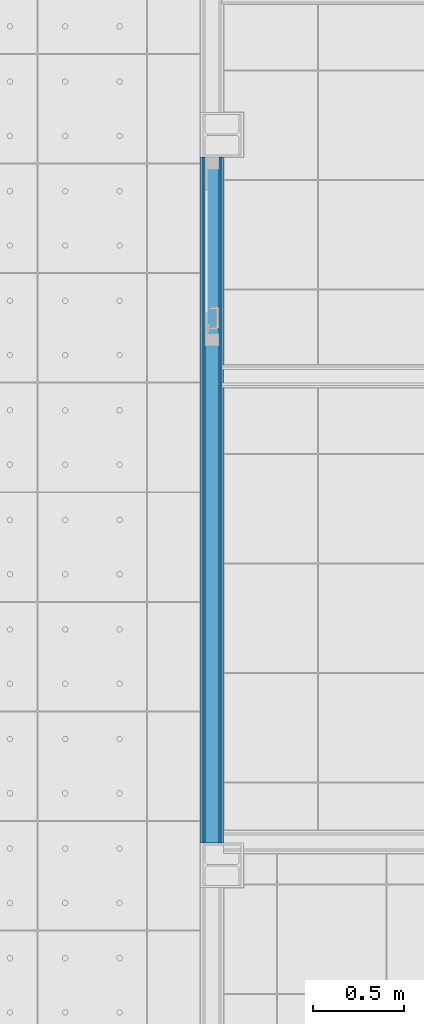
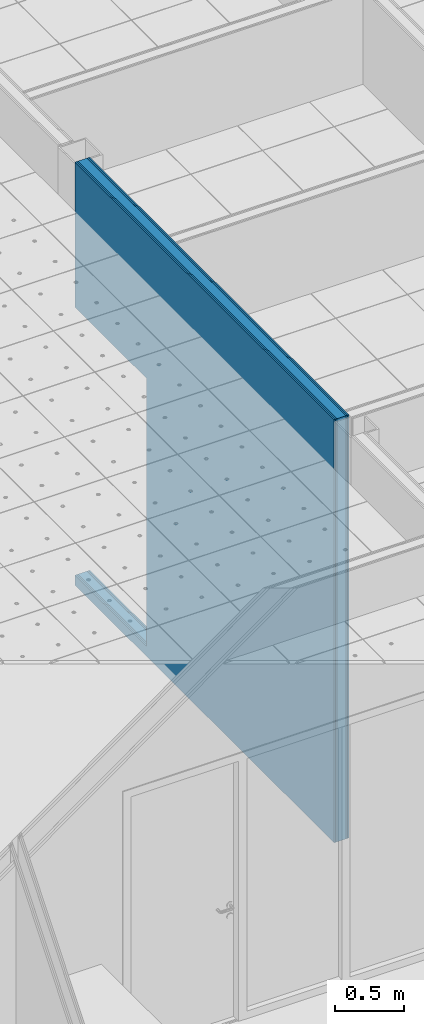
# One storey, part 84 of 338: 5 building element parts, 1 opening, 1 element without a shape of its own.
"""IFC2X3 building model written with IfcOpenShell, lengths in millimetres."""

from ifc_helpers import new_model, entity, si_unit, converted_unit, derived_unit, money_unit, direction, frame, origin_with_axes, place, context, subcontext, project, spatial, faceted_brep, material, type_object, element, aggregate, save


model = new_model("IFC2X3")

# Units and contexts
model_context = context("Model", 3, precision=0.01, world=origin_with_axes(), true_north=direction((0.0, 1.0)))
plan_context = context("Plan", 3, precision=0.01, world=origin_with_axes(), true_north=direction((0.0, 1.0)))
body_context = subcontext(model_context, "Body", "Model", "MODEL_VIEW")
ifc_project = project(units=[si_unit("LENGTHUNIT", "METRE", prefix="MILLI"), si_unit("AREAUNIT", "SQUARE_METRE"), si_unit("VOLUMEUNIT", "CUBIC_METRE"), converted_unit("PLANEANGLEUNIT", "DEGREE", entity("IfcPlaneAngleMeasure", 0.0174532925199), si_unit("PLANEANGLEUNIT", "RADIAN"), dimensions=[0, 0, 0, 0, 0, 0, 0]), money_unit("EUR"), converted_unit("TIMEUNIT", "Year", entity("IfcTimeMeasure", 31556926.0), si_unit("TIMEUNIT", "SECOND"), dimensions=[0, 0, 1, 0, 0, 0, 0]), si_unit("MASSUNIT", "GRAM", prefix="KILO"), si_unit("THERMODYNAMICTEMPERATUREUNIT", "DEGREE_CELSIUS"), si_unit("LUMINOUSINTENSITYUNIT", "LUMEN"), si_unit("ENERGYUNIT", "JOULE", prefix="MEGA"), derived_unit("THERMALCONDUCTANCEUNIT", [(si_unit("POWERUNIT", "WATT"), 1), (si_unit("LENGTHUNIT", "METRE"), -1), (si_unit("THERMODYNAMICTEMPERATUREUNIT", "KELVIN"), -1)]), derived_unit("SPECIFICHEATCAPACITYUNIT", [(si_unit("ENERGYUNIT", "JOULE"), 1), (si_unit("MASSUNIT", "GRAM", prefix="KILO"), -1), (si_unit("THERMODYNAMICTEMPERATUREUNIT", "KELVIN"), -1)]), derived_unit("MASSDENSITYUNIT", [(si_unit("MASSUNIT", "GRAM", prefix="KILO"), 1), (si_unit("VOLUMEUNIT", "CUBIC_METRE"), -1)])], contexts=[model_context, plan_context])

# Site, building, storey
site_placement = place(None, origin_with_axes())
site = spatial("IfcSite", under=ifc_project, at=site_placement, Name="Fortuinstraat Woensdrecht", CompositionType="ELEMENT")
building_placement = place(site_placement, origin_with_axes())
building = spatial("IfcBuilding", under=site, at=building_placement, Name="IKC Fortuna", CompositionType="ELEMENT")
storey_placement = place(building_placement, origin_with_axes())
storey = spatial("IfcBuildingStorey", under=building, at=storey_placement, Name="00 begane grond", CompositionType="ELEMENT", Elevation=0.0)

# Wall, opening, building element parts
wall_type = type_object("IfcWallType", Name="MS125 2.75.2A 125", PredefinedType="NOTDEFINED")
wall_placement = place(storey_placement, frame((20451.9349765, 31944.7966283, -90.0), z_axis=(0.0, 0.0, 1.0), x_axis=(0.0, -1.0, 0.0)))
wall = element("IfcWall", 1, at=wall_placement, inside=storey, type_object=wall_type, Name="22_Wand_Binnenwand")
opening_placement = place(wall_placement, frame((517.0, 0.0, 90.0), z_axis=(0.0, 0.0, 1.0), x_axis=(1.0, 0.0, 0.0)))
element("IfcOpeningElement", 2, at=opening_placement, cuts=wall, Name="32_Deur_h.01c", context=body_context, shape_type="Brep", body=[
    faceted_brep([(-517.0, 125.0, 2367.0), (-517.0, 125.0, 0.0), (-517.0, -250.0, 0.0), (-517.0, -250.0, 2367.0), (517.0, 125.0, 2367.0), (517.0, 125.0, 0.0), (517.0, -250.0, 0.0), (517.0, -250.0, 2367.0)], [[[0, 1, 2, 3]], [[0, 4, 5, 1]], [[1, 5, 6, 2]], [[3, 2, 6, 7]], [[4, 0, 3, 7]], [[5, 4, 7, 6]]]),
])
ifc_material_1 = material(Name="Gipsplaat")
building_element_part_1_placement = place(wall_placement, origin_with_axes())
building_element_part_1 = element("IfcBuildingElementPart", 3, at=building_element_part_1_placement, material=ifc_material_1, Name="Gipsplaat", context=body_context, shape_type="Brep", body=[
    faceted_brep([(1034.0, 125.0, 90.0), (1034.0, 125.0, 2457.0), (0.0, 125.0, 2457.0), (0.0, 125.0, 3740.0), (3755.0, 125.0, 3740.0), (3755.0, 125.0, 0.0), (0.0, 125.0, 0.0), (0.0, 125.0, 90.0), (1034.0, 112.5, 90.0), (1034.0, 112.5, 2457.0), (0.0, 112.5, 2457.0), (0.0, 112.5, 3740.0), (3755.0, 112.5, 3740.0), (3755.0, 112.5, 0.0), (0.0, 112.5, 0.0), (0.0, 112.5, 90.0)], [[[0, 1, 2, 3, 4, 5, 6, 7]], [[1, 0, 8, 9]], [[10, 2, 1, 9]], [[2, 10, 11, 3]], [[4, 3, 11, 12]], [[13, 5, 4, 12]], [[13, 14, 6, 5]], [[15, 7, 6, 14]], [[0, 7, 15, 8]], [[8, 15, 14, 13, 12, 11, 10, 9]]]),
])
building_element_part_2_placement = place(wall_placement, origin_with_axes())
building_element_part_2 = element("IfcBuildingElementPart", 4, at=building_element_part_2_placement, material=ifc_material_1, Name="Gipsplaat", context=body_context, shape_type="Brep", body=[
    faceted_brep([(1034.0, 112.5, 90.0), (1034.0, 112.5, 2457.0), (0.0, 112.5, 2457.0), (0.0, 112.5, 3740.0), (3755.0, 112.5, 3740.0), (3755.0, 112.5, 0.0), (0.0, 112.5, 0.0), (0.0, 112.5, 90.0), (1034.0, 100.0, 90.0), (1034.0, 100.0, 2457.0), (0.0, 100.0, 2457.0), (0.0, 100.0, 3740.0), (3755.0, 100.0, 3740.0), (3755.0, 100.0, 0.0), (0.0, 100.0, 0.0), (0.0, 100.0, 90.0)], [[[0, 1, 2, 3, 4, 5, 6, 7]], [[1, 0, 8, 9]], [[10, 2, 1, 9]], [[2, 10, 11, 3]], [[4, 3, 11, 12]], [[13, 5, 4, 12]], [[13, 14, 6, 5]], [[15, 7, 6, 14]], [[0, 7, 15, 8]], [[8, 15, 14, 13, 12, 11, 10, 9]]]),
])
ifc_material_2 = material(Name="Isolatie - Steenwol LSW")
building_element_part_3_placement = place(wall_placement, origin_with_axes())
building_element_part_3 = element("IfcBuildingElementPart", 5, at=building_element_part_3_placement, material=ifc_material_2, Name="Isolatie - Steenwol LSW", context=body_context, shape_type="Brep", body=[
    faceted_brep([(1034.0, 100.0, 90.0), (1034.0, 100.0, 2457.0), (0.0, 100.0, 2457.0), (0.0, 100.0, 3740.0), (3755.0, 100.0, 3740.0), (3755.0, 100.0, 0.0), (0.0, 100.0, 0.0), (0.0, 100.0, 90.0), (1034.0, 25.0, 90.0), (1034.0, 25.0, 2457.0), (0.0, 25.0, 2457.0), (0.0, 25.0, 3740.0), (3755.0, 25.0, 3740.0), (3755.0, 25.0, 0.0), (0.0, 25.0, 0.0), (0.0, 25.0, 90.0)], [[[0, 1, 2, 3, 4, 5, 6, 7]], [[1, 0, 8, 9]], [[10, 2, 1, 9]], [[2, 10, 11, 3]], [[4, 3, 11, 12]], [[13, 5, 4, 12]], [[13, 14, 6, 5]], [[15, 7, 6, 14]], [[0, 7, 15, 8]], [[8, 15, 14, 13, 12, 11, 10, 9]]]),
])
building_element_part_4_placement = place(wall_placement, origin_with_axes())
building_element_part_4 = element("IfcBuildingElementPart", 6, at=building_element_part_4_placement, material=ifc_material_1, Name="Gipsplaat", context=body_context, shape_type="Brep", body=[
    faceted_brep([(1034.0, 25.0, 90.0), (1034.0, 25.0, 2457.0), (0.0, 25.0, 2457.0), (0.0, 25.0, 3740.0), (3755.0, 25.0, 3740.0), (3755.0, 25.0, 0.0), (0.0, 25.0, 0.0), (0.0, 25.0, 90.0), (1034.0, 12.5, 90.0), (1034.0, 12.5, 2457.0), (0.0, 12.5, 2457.0), (0.0, 12.5, 3740.0), (3755.0, 12.5, 3740.0), (3755.0, 12.5, 0.0), (0.0, 12.5, 0.0), (0.0, 12.5, 90.0)], [[[0, 1, 2, 3, 4, 5, 6, 7]], [[1, 0, 8, 9]], [[10, 2, 1, 9]], [[2, 10, 11, 3]], [[4, 3, 11, 12]], [[13, 5, 4, 12]], [[13, 14, 6, 5]], [[15, 7, 6, 14]], [[0, 7, 15, 8]], [[8, 15, 14, 13, 12, 11, 10, 9]]]),
])
building_element_part_5_placement = place(wall_placement, origin_with_axes())
building_element_part_5 = element("IfcBuildingElementPart", 7, at=building_element_part_5_placement, material=ifc_material_1, Name="Gipsplaat", context=body_context, shape_type="Brep", body=[
    faceted_brep([(1034.0, 12.5, 90.0), (1034.0, 12.5, 2457.0), (0.0, 12.5, 2457.0), (0.0, 12.5, 3740.0), (3755.0, 12.5, 3740.0), (3755.0, 12.5, 0.0), (0.0, 12.5, 0.0), (0.0, 12.5, 90.0), (1034.0, 0.0, 90.0), (1034.0, 0.0, 2457.0), (0.0, 0.0, 2457.0), (0.0, 0.0, 3740.0), (3755.0, 0.0, 3740.0), (3755.0, 0.0, 0.0), (0.0, 0.0, 0.0), (0.0, 0.0, 90.0)], [[[0, 1, 2, 3, 4, 5, 6, 7]], [[1, 0, 8, 9]], [[10, 2, 1, 9]], [[2, 10, 11, 3]], [[4, 3, 11, 12]], [[13, 5, 4, 12]], [[13, 14, 6, 5]], [[15, 7, 6, 14]], [[0, 7, 15, 8]], [[8, 15, 14, 13, 12, 11, 10, 9]]]),
])
aggregate(wall, [building_element_part_1, building_element_part_2, building_element_part_3, building_element_part_4, building_element_part_5])

save(model, "model.ifc")
